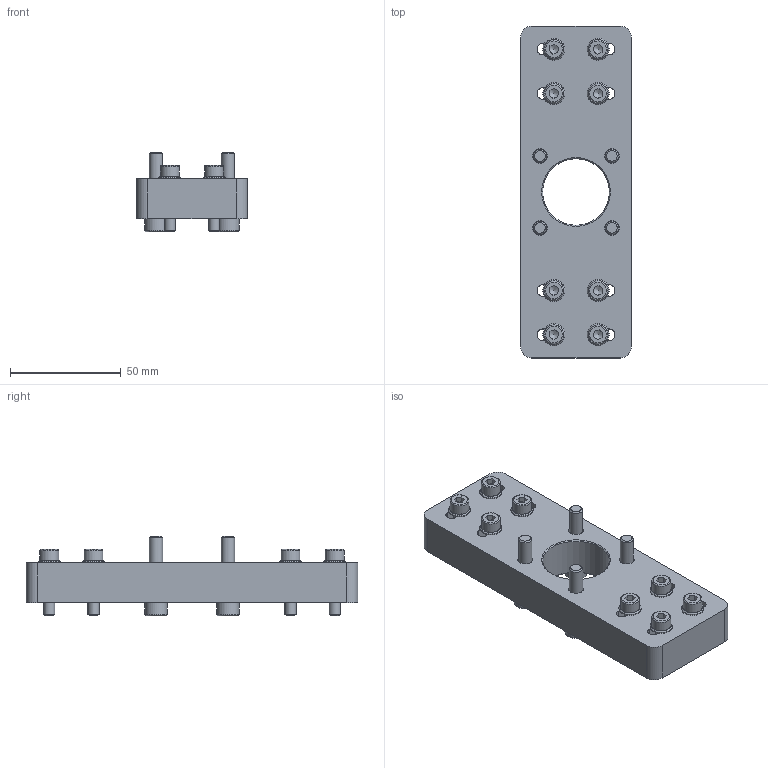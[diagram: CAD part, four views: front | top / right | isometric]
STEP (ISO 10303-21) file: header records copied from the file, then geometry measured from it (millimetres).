
FILE_DESCRIPTION(/* description */ ('Crossbar ETH032 with direct Mounting'),/* implementation_level */ '2;1');
FILE_NAME(/* name */ 'D:\InventorWorkspace2017\CAD\Projekte_EDEM\HLR\Zubehörteile\0232.035-01.stp',/* time_stamp */ '2019-02-13T11:30:36+01:00',/* author */ ('544672'),/* organization */ (''),/* preprocessor_version */ 'ST-DEVELOPER v16.5',/* originating_system */ 'Autodesk Inventor 2017',/* authorisation */ '');
FILE_SCHEMA (('AUTOMOTIVE_DESIGN { 1 0 10303 214 3 1 1 }'));
Length unit declared in the file: millimetre
Products named in the file (5): 0232.035-01; 0231.027; 135-721033; 135-728812; 135-721046
Assembly tree (21 placements, depth 2):
  0232.035-01
    0231.027
    135-721033  x8
    135-728812  x8
    135-721046  x4
Bounding box: 50 x 150 x 36 mm (x, y, z)
Volume: 123713.1 mm3; surface area: 36839.2 mm2
Topology: 21 solids, 21 shells, 269 faces, 591 edges, 376 vertices
Faces by surface type: plane 146, cylinder 65, cone 34, torus 24
Full cylindrical faces by diameter (mm): 5 x8, 5.3 x8, 6 x4, 6.6 x4, 8.5 x8, 10 x12, 30.1 x1
Entity records: 2728 total; most frequent: DIRECTION 466, CARTESIAN_POINT 456, ORIENTED_EDGE 374, EDGE_CURVE 187, AXIS2_PLACEMENT_3D 181, EDGE_LOOP 136, VERTEX_POINT 135, LINE 104
